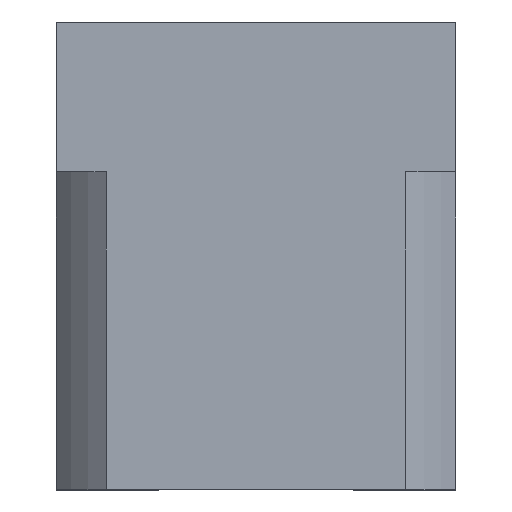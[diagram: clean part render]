
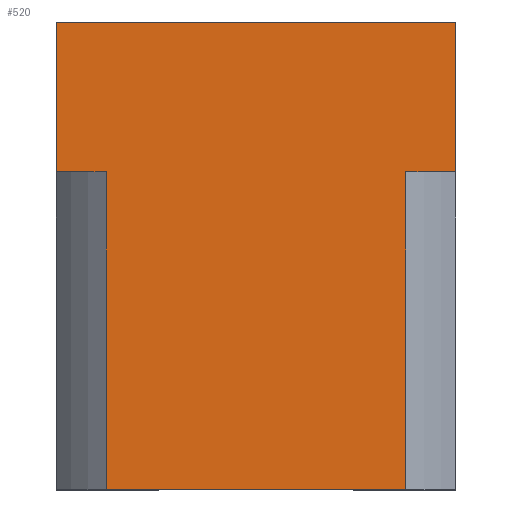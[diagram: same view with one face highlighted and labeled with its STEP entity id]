
A CAD part, top view. The second image highlights one B-rep face of the part: STEP entity #520.
In plain terms, the highlighted planar face has unit normal (0, 0, 1).
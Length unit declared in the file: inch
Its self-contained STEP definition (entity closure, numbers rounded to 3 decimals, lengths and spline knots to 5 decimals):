
#47=FACE_OUTER_BOUND('',#73,.T.);
#73=EDGE_LOOP('',(#458,#459,#460,#461,#462,#463,#464,#465));
#138=LINE('',#859,#195);
#141=LINE('',#865,#198);
#145=LINE('',#874,#202);
#146=LINE('',#881,#203);
#147=LINE('',#884,#204);
#148=LINE('',#886,#205);
#149=LINE('',#888,#206);
#150=LINE('',#889,#207);
#195=VECTOR('',#691,0.3937);
#198=VECTOR('',#696,0.3937);
#202=VECTOR('',#702,0.3937);
#203=VECTOR('',#711,0.3937);
#204=VECTOR('',#716,0.3937);
#205=VECTOR('',#719,0.3937);
#206=VECTOR('',#722,0.3937);
#207=VECTOR('',#723,0.3937);
#247=VERTEX_POINT('',#856);
#248=VERTEX_POINT('',#858);
#249=VERTEX_POINT('',#862);
#250=VERTEX_POINT('',#864);
#253=VERTEX_POINT('',#872);
#254=VERTEX_POINT('',#873);
#255=VERTEX_POINT('',#878);
#256=VERTEX_POINT('',#880);
#314=EDGE_CURVE('',#247,#248,#138,.T.);
#317=EDGE_CURVE('',#250,#249,#141,.T.);
#321=EDGE_CURVE('',#253,#254,#145,.T.);
#325=EDGE_CURVE('',#255,#256,#146,.T.);
#327=EDGE_CURVE('',#247,#254,#147,.T.);
#328=EDGE_CURVE('',#255,#250,#148,.T.);
#329=EDGE_CURVE('',#256,#253,#149,.T.);
#330=EDGE_CURVE('',#248,#249,#150,.T.);
#458=ORIENTED_EDGE('',*,*,#327,.T.);
#459=ORIENTED_EDGE('',*,*,#321,.F.);
#460=ORIENTED_EDGE('',*,*,#329,.F.);
#461=ORIENTED_EDGE('',*,*,#325,.F.);
#462=ORIENTED_EDGE('',*,*,#328,.T.);
#463=ORIENTED_EDGE('',*,*,#317,.T.);
#464=ORIENTED_EDGE('',*,*,#330,.F.);
#465=ORIENTED_EDGE('',*,*,#314,.F.);
#494=PLANE('',#582);
#520=ADVANCED_FACE('',(#47),#494,.T.);
#582=AXIS2_PLACEMENT_3D('',#887,#720,#721);
#691=DIRECTION('',(0.,1.,0.));
#696=DIRECTION('',(0.,1.,0.));
#702=DIRECTION('',(0.,1.,0.));
#711=DIRECTION('',(0.,-1.,0.));
#716=DIRECTION('',(1.,0.,0.));
#719=DIRECTION('',(1.,0.,0.));
#720=DIRECTION('center_axis',(0.,0.,1.));
#721=DIRECTION('ref_axis',(1.,0.,0.));
#722=DIRECTION('',(-1.,0.,0.));
#723=DIRECTION('',(1.,0.,0.));
#856=CARTESIAN_POINT('',(-0.4,0.63661,0.4));
#858=CARTESIAN_POINT('',(-0.4,0.93661,0.4));
#859=CARTESIAN_POINT('',(-0.4,0.63661,0.4));
#862=CARTESIAN_POINT('',(0.4,0.93661,0.4));
#864=CARTESIAN_POINT('',(0.4,0.63661,0.4));
#865=CARTESIAN_POINT('',(0.4,0.63661,0.4));
#872=CARTESIAN_POINT('',(-0.3,0.,0.4));
#873=CARTESIAN_POINT('',(-0.3,0.63661,0.4));
#874=CARTESIAN_POINT('',(-0.3,0.31831,0.4));
#878=CARTESIAN_POINT('',(0.3,0.63661,0.4));
#880=CARTESIAN_POINT('',(0.3,0.,0.4));
#881=CARTESIAN_POINT('',(0.3,0.31831,0.4));
#884=CARTESIAN_POINT('',(-0.4,0.63661,0.4));
#886=CARTESIAN_POINT('',(-0.4,0.63661,0.4));
#887=CARTESIAN_POINT('Origin',(-0.4,0.63661,0.4));
#888=CARTESIAN_POINT('',(-0.10226,0.,0.4));
#889=CARTESIAN_POINT('',(-0.4,0.93661,0.4));
